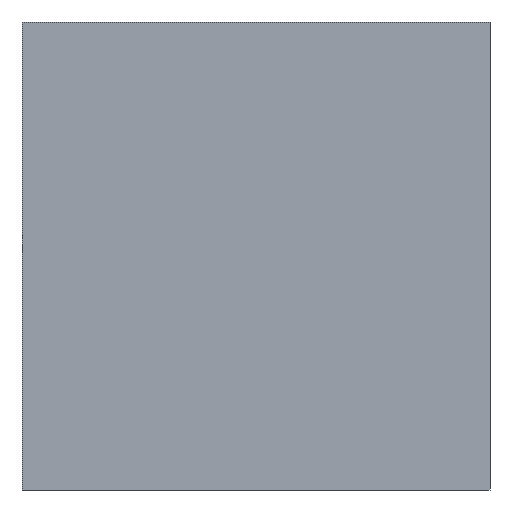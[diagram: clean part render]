
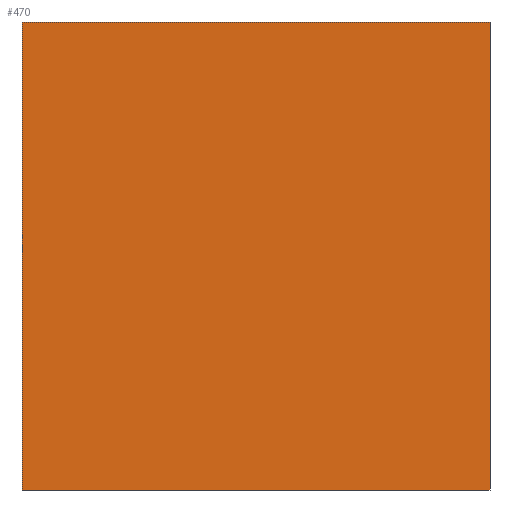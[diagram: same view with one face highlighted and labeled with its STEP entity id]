
A CAD part, front view. The second image highlights one B-rep face of the part: STEP entity #470.
In plain terms, the highlighted planar face has unit normal (0, -1, 0).
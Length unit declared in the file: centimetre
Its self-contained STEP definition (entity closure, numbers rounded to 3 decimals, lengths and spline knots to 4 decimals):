
#19 = CARTESIAN_POINT ( 'NONE',  ( 0., 0., 1000. ) ) ;
#55 = LINE ( 'NONE', #309, #254 ) ;
#64 = CARTESIAN_POINT ( 'NONE',  ( 1000., 0., 1000. ) ) ;
#66 = DIRECTION ( 'NONE',  ( 0., 0., 1. ) ) ;
#91 = DIRECTION ( 'NONE',  ( 0., 0., -1. ) ) ;
#94 = CARTESIAN_POINT ( 'NONE',  ( 0., 0., 0. ) ) ;
#130 = LINE ( 'NONE', #19, #279 ) ;
#152 = EDGE_LOOP ( 'NONE', ( #298, #267, #445, #446 ) ) ;
#165 = CARTESIAN_POINT ( 'NONE',  ( 1000., 0., 0. ) ) ;
#166 = DIRECTION ( 'NONE',  ( 1., 0., 0. ) ) ;
#175 = VECTOR ( 'NONE', #91, 100. ) ;
#195 = EDGE_CURVE ( 'NONE', #471, #427, #55, .T. ) ;
#204 = DIRECTION ( 'NONE',  ( 0., 0., -1. ) ) ;
#212 = CARTESIAN_POINT ( 'NONE',  ( 0., 0., 1000. ) ) ;
#227 = VERTEX_POINT ( 'NONE', #94 ) ;
#238 = LINE ( 'NONE', #280, #359 ) ;
#242 = CARTESIAN_POINT ( 'NONE',  ( 0., 0., 1000. ) ) ;
#243 = EDGE_CURVE ( 'NONE', #471, #227, #130, .T. ) ;
#254 = VECTOR ( 'NONE', #166, 100. ) ;
#267 = ORIENTED_EDGE ( 'NONE', *, *, #381, .F. ) ;
#279 = VECTOR ( 'NONE', #204, 100. ) ;
#280 = CARTESIAN_POINT ( 'NONE',  ( 0., 0., 0. ) ) ;
#287 = FACE_OUTER_BOUND ( 'NONE', #152, .T. ) ;
#298 = ORIENTED_EDGE ( 'NONE', *, *, #390, .T. ) ;
#309 = CARTESIAN_POINT ( 'NONE',  ( 0., 0., 1000. ) ) ;
#313 = DIRECTION ( 'NONE',  ( 1., 0., 0. ) ) ;
#359 = VECTOR ( 'NONE', #313, 100. ) ;
#373 = VERTEX_POINT ( 'NONE', #165 ) ;
#381 = EDGE_CURVE ( 'NONE', #427, #373, #384, .T. ) ;
#384 = LINE ( 'NONE', #418, #175 ) ;
#390 = EDGE_CURVE ( 'NONE', #227, #373, #238, .T. ) ;
#392 = DIRECTION ( 'NONE',  ( 0., 1., 0. ) ) ;
#411 = AXIS2_PLACEMENT_3D ( 'NONE', #242, #392, #66 ) ;
#418 = CARTESIAN_POINT ( 'NONE',  ( 1000., 0., 1000. ) ) ;
#426 = PLANE ( 'NONE',  #411 ) ;
#427 = VERTEX_POINT ( 'NONE', #64 ) ;
#445 = ORIENTED_EDGE ( 'NONE', *, *, #195, .F. ) ;
#446 = ORIENTED_EDGE ( 'NONE', *, *, #243, .T. ) ;
#470 = ADVANCED_FACE ( 'NONE', ( #287 ), #426, .F. ) ;
#471 = VERTEX_POINT ( 'NONE', #212 ) ;
